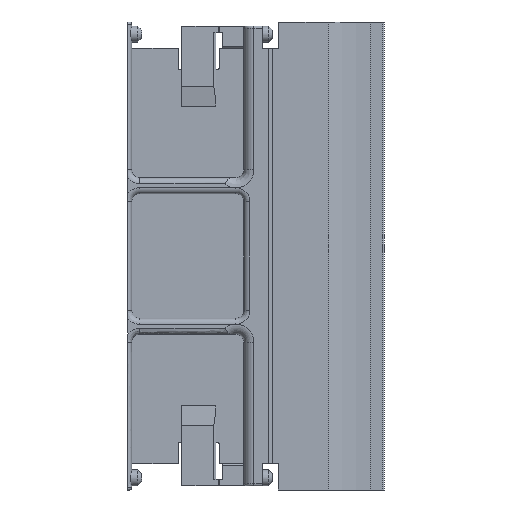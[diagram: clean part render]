
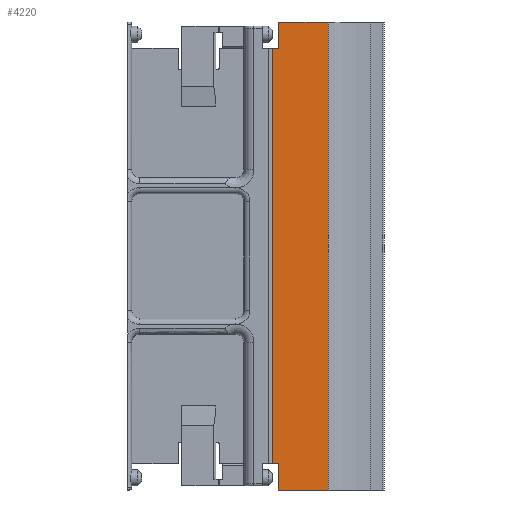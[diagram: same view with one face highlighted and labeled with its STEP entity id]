
A CAD part, front view. The second image highlights one B-rep face of the part: STEP entity #4220.
In plain terms, the highlighted planar face has unit normal (0, -1, 0).
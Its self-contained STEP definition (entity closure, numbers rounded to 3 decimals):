
#3669=CARTESIAN_POINT('',(225.561,163.797,60.));
#3670=VERTEX_POINT('',#3669);
#3671=CARTESIAN_POINT('',(225.561,163.797,66.5));
#3672=VERTEX_POINT('',#3671);
#3673=CARTESIAN_POINT('',(225.561,163.797,60.));
#3674=DIRECTION('',(0.0,0.0,1.0));
#3675=VECTOR('',#3674,6.5);
#3676=LINE('',#3673,#3675);
#3677=EDGE_CURVE('',#3670,#3672,#3676,.T.);
#3700=CARTESIAN_POINT('',(223.962,163.797,66.5));
#3701=VERTEX_POINT('',#3700);
#3702=CARTESIAN_POINT('',(225.561,163.797,66.5));
#3703=DIRECTION('',(-1.0,0.0,0.0));
#3704=VECTOR('',#3703,1.6);
#3705=LINE('',#3702,#3704);
#3706=EDGE_CURVE('',#3672,#3701,#3705,.T.);
#3902=CARTESIAN_POINT('',(238.014,163.797,60.));
#3903=VERTEX_POINT('',#3902);
#3911=CARTESIAN_POINT('',(238.014,163.797,60.));
#3912=DIRECTION('',(-1.0,0.0,0.0));
#3913=VECTOR('',#3912,12.453);
#3914=LINE('',#3911,#3913);
#3915=EDGE_CURVE('',#3903,#3670,#3914,.T.);
#4160=CARTESIAN_POINT('',(223.962,163.797,170.1));
#4161=VERTEX_POINT('',#4160);
#4162=CARTESIAN_POINT('',(223.962,163.797,66.5));
#4163=DIRECTION('',(0.0,0.0,1.0));
#4164=VECTOR('',#4163,103.6);
#4165=LINE('',#4162,#4164);
#4166=EDGE_CURVE('',#3701,#4161,#4165,.T.);
#4179=CARTESIAN_POINT('',(238.014,163.797,0.0));
#4180=DIRECTION('',(0.0,-1.0,0.0));
#4181=DIRECTION('',(0.0,0.0,-1.0));
#4182=AXIS2_PLACEMENT_3D('',#4179,#4180,#4181);
#4183=PLANE('',#4182);
#4184=CARTESIAN_POINT('',(238.014,163.797,176.6));
#4185=VERTEX_POINT('',#4184);
#4186=CARTESIAN_POINT('',(238.014,163.797,60.));
#4187=DIRECTION('',(0.0,0.0,1.0));
#4188=VECTOR('',#4187,116.6);
#4189=LINE('',#4186,#4188);
#4190=EDGE_CURVE('',#3903,#4185,#4189,.T.);
#4191=ORIENTED_EDGE('',*,*,#4190,.T.);
#4192=CARTESIAN_POINT('',(225.561,163.797,176.6));
#4193=VERTEX_POINT('',#4192);
#4194=CARTESIAN_POINT('',(238.014,163.797,176.6));
#4195=DIRECTION('',(-1.0,0.0,0.0));
#4196=VECTOR('',#4195,12.453);
#4197=LINE('',#4194,#4196);
#4198=EDGE_CURVE('',#4185,#4193,#4197,.T.);
#4199=ORIENTED_EDGE('',*,*,#4198,.T.);
#4200=CARTESIAN_POINT('',(225.561,163.797,170.1));
#4201=VERTEX_POINT('',#4200);
#4202=CARTESIAN_POINT('',(225.561,163.797,176.6));
#4203=DIRECTION('',(0.0,0.0,-1.0));
#4204=VECTOR('',#4203,6.5);
#4205=LINE('',#4202,#4204);
#4206=EDGE_CURVE('',#4193,#4201,#4205,.T.);
#4207=ORIENTED_EDGE('',*,*,#4206,.T.);
#4208=CARTESIAN_POINT('',(225.561,163.797,170.1));
#4209=DIRECTION('',(-1.0,0.0,0.0));
#4210=VECTOR('',#4209,1.6);
#4211=LINE('',#4208,#4210);
#4212=EDGE_CURVE('',#4201,#4161,#4211,.T.);
#4213=ORIENTED_EDGE('',*,*,#4212,.T.);
#4214=ORIENTED_EDGE('',*,*,#4166,.F.);
#4215=ORIENTED_EDGE('',*,*,#3706,.F.);
#4216=ORIENTED_EDGE('',*,*,#3677,.F.);
#4217=ORIENTED_EDGE('',*,*,#3915,.F.);
#4218=EDGE_LOOP('',(#4191,#4199,#4207,#4213,#4214,#4215,#4216,#4217));
#4219=FACE_OUTER_BOUND('',#4218,.T.);
#4220=ADVANCED_FACE('',(#4219),#4183,.T.);
